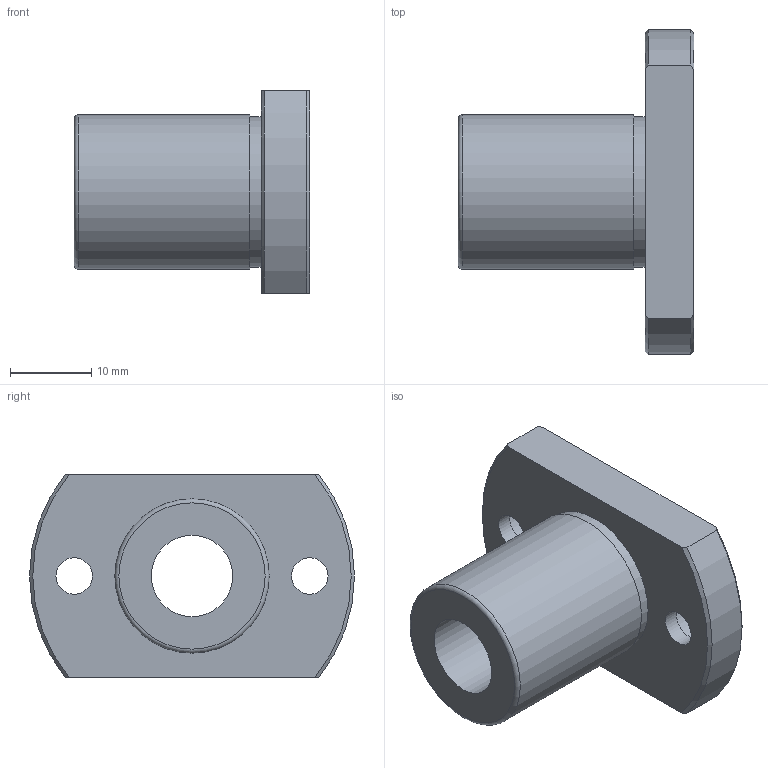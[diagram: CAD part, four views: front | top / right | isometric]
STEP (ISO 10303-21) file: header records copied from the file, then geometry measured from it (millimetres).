
FILE_DESCRIPTION(('STEP AP203'),'1');
FILE_NAME('//192.168.1.1/share/s-4 技術開発/s-4-4_CAD/s-4-4-3_見直し済み/002 修正済み/NFEO-V(済)/NFEO-V_TOP/NFEO-10VUU.step','2022-03-08T01:31:06',(' '),(' '),'Spatial InterOp 3D',' ',' ');
FILE_SCHEMA(('CONFIG_CONTROL_DESIGN'));
Length unit declared in the file: millimetre
Products named in the file (1): 1
Bounding box: 29 x 40 x 25 mm (x, y, z)
Volume: 9370.9 mm3; surface area: 4858 mm2
Topology: 1 solids, 1 shells, 22 faces, 49 edges, 33 vertices
Faces by surface type: cylinder 9, plane 8, cone 4, torus 1
Full cylindrical faces by diameter (mm): 4.5 x2, 7.5 x2, 10 x1, 18.5 x1, 19 x1
Entity records: 630 total; most frequent: CARTESIAN_POINT 117, DIRECTION 100, ORIENTED_EDGE 78, AXIS2_PLACEMENT_3D 46, EDGE_LOOP 40, EDGE_CURVE 39, VERTEX_POINT 31, FACE_OUTER_BOUND 30
